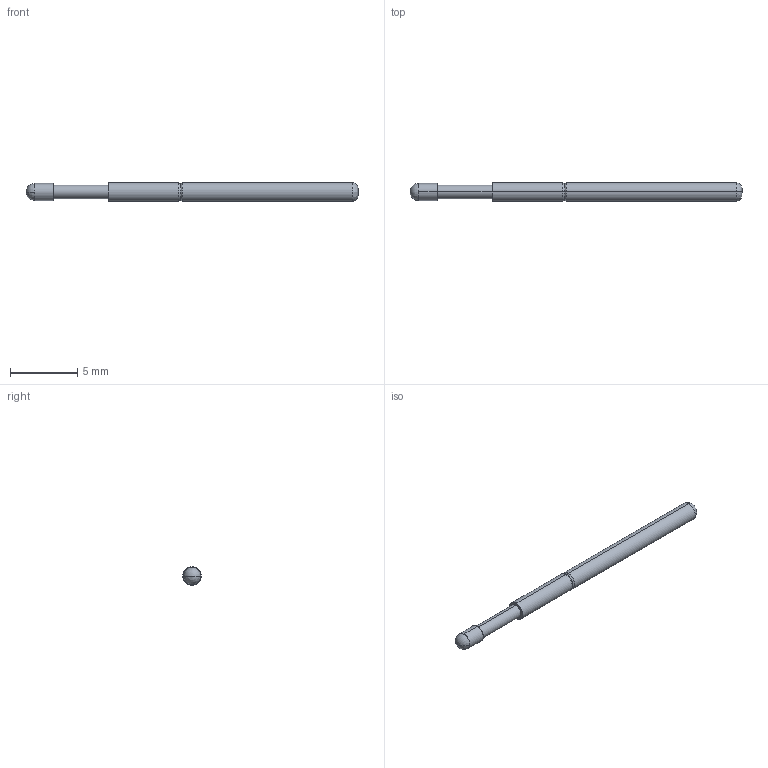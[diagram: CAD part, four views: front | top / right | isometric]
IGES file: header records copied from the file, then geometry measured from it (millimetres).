
Start section: SolidWorks IGES file using analytic representation for surfaces
Global section: file name: Z:\probe solid model mockups\Solidworks models\IGES Files\EPA-2\EPA-2D.IGS; native system: SolidWorks 2006 by SolidWorks Corporation; preprocessor: SolidWorks 2006 by SolidWorks Corporation; author: tsakatani; date: 071220.161626; units: inch
Bounding box: 24.64 x 1.37 x 1.37 mm (x, y, z)
Surface area: 102.8 mm2 (no closed solid volume)
Topology: 0 solids, 0 shells, 19 faces, 148 edges, 146 vertices
Faces by surface type: revolution 10, bspline 9
